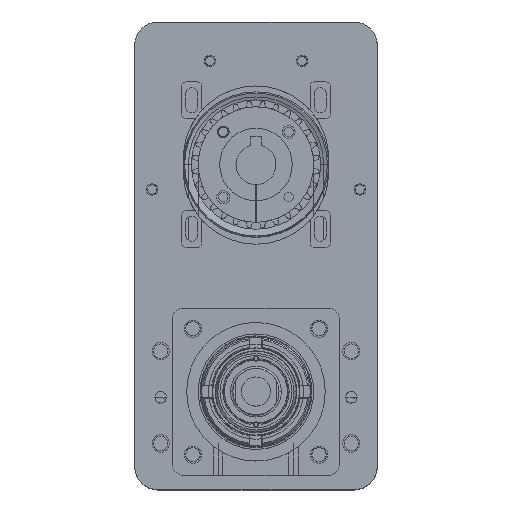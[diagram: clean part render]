
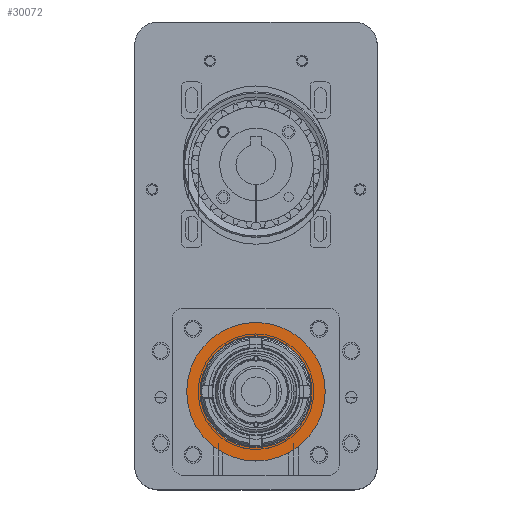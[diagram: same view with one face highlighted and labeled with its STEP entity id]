
A CAD part, top view. The second image highlights one B-rep face of the part: STEP entity #30072.
In plain terms, the highlighted planar face has unit normal (0, 0, 1).
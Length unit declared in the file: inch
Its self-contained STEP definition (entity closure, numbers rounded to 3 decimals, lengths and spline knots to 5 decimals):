
#1730 = CARTESIAN_POINT ( 'NONE',  ( -1.205, 0., 0. ) ) ;
#1731 = CARTESIAN_POINT ( 'NONE',  ( 1.205, 0., 0. ) ) ;
#1734 = CARTESIAN_POINT ( 'NONE',  ( -1.5, 0., 0. ) ) ;
#1735 = CARTESIAN_POINT ( 'NONE',  ( 1.5, 0., 0. ) ) ;
#2601 = PLANE ( 'NONE',  #65266 ) ;
#2602 = CARTESIAN_POINT ( 'NONE',  ( -1.8125, 1.8125, 0. ) ) ;
#2603 = DIRECTION ( 'NONE',  ( 0., 0., -1. ) ) ;
#2604 = DIRECTION ( 'NONE',  ( -1., 0., 0. ) ) ;
#18873 = VERTEX_POINT ( 'NONE', #1730 ) ;
#18874 = VERTEX_POINT ( 'NONE', #1731 ) ;
#18877 = VERTEX_POINT ( 'NONE', #1734 ) ;
#18878 = VERTEX_POINT ( 'NONE', #1735 ) ;
#28071 = EDGE_LOOP ( 'NONE', ( #45788, #45792 ) ) ;
#28072 = EDGE_LOOP ( 'NONE', ( #45786, #45794 ) ) ;
#30072 = ADVANCED_FACE ( 'NONE', ( #80367, #80368 ), #2601, .F. ) ;
#45786 = ORIENTED_EDGE ( 'NONE', *, *, #52072, .T. ) ;
#45788 = ORIENTED_EDGE ( 'NONE', *, *, #52120, .F. ) ;
#45792 = ORIENTED_EDGE ( 'NONE', *, *, #52068, .F. ) ;
#45794 = ORIENTED_EDGE ( 'NONE', *, *, #52119, .T. ) ;
#52068 = EDGE_CURVE ( 'NONE', #18873, #18874, #69344, .T. ) ;
#52072 = EDGE_CURVE ( 'NONE', #18878, #18877, #69338, .T. ) ;
#52119 = EDGE_CURVE ( 'NONE', #18877, #18878, #69419, .T. ) ;
#52120 = EDGE_CURVE ( 'NONE', #18874, #18873, #69421, .T. ) ;
#65153 = CARTESIAN_POINT ( 'NONE',  ( 0., 0., 0. ) ) ;
#65154 = DIRECTION ( 'NONE',  ( 0., 0., 1. ) ) ;
#65155 = DIRECTION ( 'NONE',  ( 1., 0., 0. ) ) ;
#65163 = CARTESIAN_POINT ( 'NONE',  ( 0., 0., 0. ) ) ;
#65164 = DIRECTION ( 'NONE',  ( 0., 0., 1. ) ) ;
#65165 = DIRECTION ( 'NONE',  ( 1., 0., 0. ) ) ;
#65266 = AXIS2_PLACEMENT_3D ( 'NONE', #2602, #2603, #2604 ) ;
#65339 = CARTESIAN_POINT ( 'NONE',  ( 0., 0., 0. ) ) ;
#65341 = DIRECTION ( 'NONE',  ( 0., 0., 1. ) ) ;
#65343 = DIRECTION ( 'NONE',  ( 1., 0., 0. ) ) ;
#65345 = CARTESIAN_POINT ( 'NONE',  ( 0., 0., 0. ) ) ;
#65347 = DIRECTION ( 'NONE',  ( 0., 0., 1. ) ) ;
#65348 = DIRECTION ( 'NONE',  ( 1., 0., 0. ) ) ;
#69338 = CIRCLE ( 'NONE', #69351, 1.5 ) ;
#69344 = CIRCLE ( 'NONE', #69345, 1.205 ) ;
#69345 = AXIS2_PLACEMENT_3D ( 'NONE', #65153, #65154, #65155 ) ;
#69351 = AXIS2_PLACEMENT_3D ( 'NONE', #65163, #65164, #65165 ) ;
#69419 = CIRCLE ( 'NONE', #69426, 1.5 ) ;
#69421 = CIRCLE ( 'NONE', #69428, 1.205 ) ;
#69426 = AXIS2_PLACEMENT_3D ( 'NONE', #65339, #65341, #65343 ) ;
#69428 = AXIS2_PLACEMENT_3D ( 'NONE', #65345, #65347, #65348 ) ;
#80367 = FACE_BOUND ( 'NONE', #28071, .T. ) ;
#80368 = FACE_OUTER_BOUND ( 'NONE', #28072, .T. ) ;
